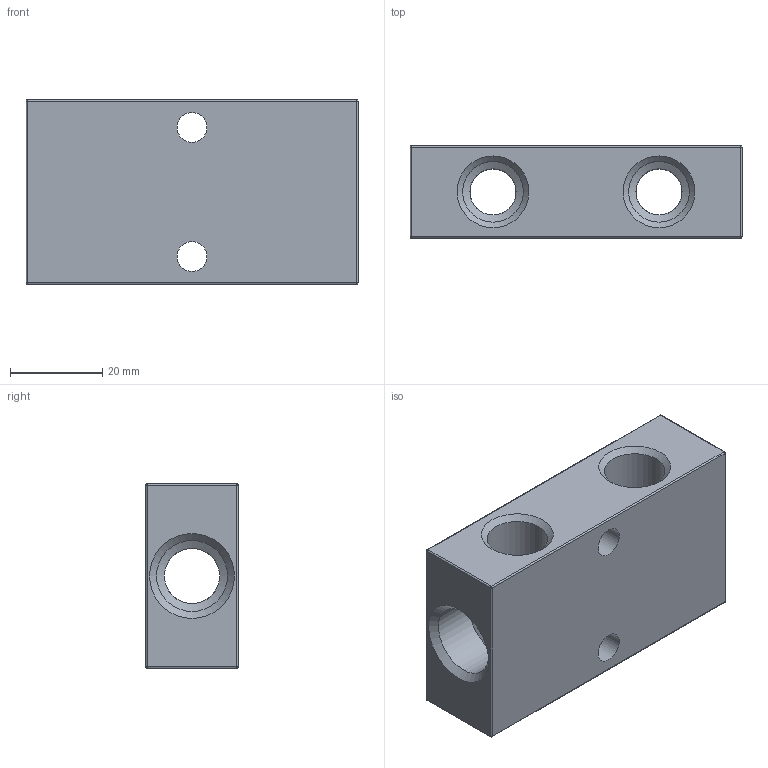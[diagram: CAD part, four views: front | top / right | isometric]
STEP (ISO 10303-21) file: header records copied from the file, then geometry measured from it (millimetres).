
FILE_DESCRIPTION(/* description */ (''),/* implementation_level */ '2;1');
FILE_NAME(/* name */ 'S:\_Tecnico\ArchivioUT\_Disegni3D ingombri\DISEGNI 3D per ingombri\RL\RL52381422.stp',/* time_stamp */ '2020-02-20T11:25:09+01:00',/* author */ ('UfficioTecnico'),/* organization */ (''),/* preprocessor_version */ 'ST-DEVELOPER v18',/* originating_system */ 'Autodesk Inventor 2020',/* authorisation */ '');
FILE_SCHEMA (('AUTOMOTIVE_DESIGN { 1 0 10303 214 3 1 1 }'));
Length unit declared in the file: millimetre
Products named in the file (1): RL51381402
Bounding box: 72 x 20 x 40 mm (x, y, z)
Volume: 38971.3 mm3; surface area: 14949.3 mm2
Topology: 1 solids, 1 shells, 51 faces, 121 edges, 72 vertices
Faces by surface type: cylinder 25, cone 12, sphere 8, plane 6
Full cylindrical faces by diameter (mm): 6.5 x2, 10 x4, 12 x1, 13.157 x4, 15.395 x2
Entity records: 1692 total; most frequent: CARTESIAN_POINT 413, DIRECTION 281, ORIENTED_EDGE 242, EDGE_CURVE 121, AXIS2_PLACEMENT_3D 116, VERTEX_POINT 72, EDGE_LOOP 65, CIRCLE 64
